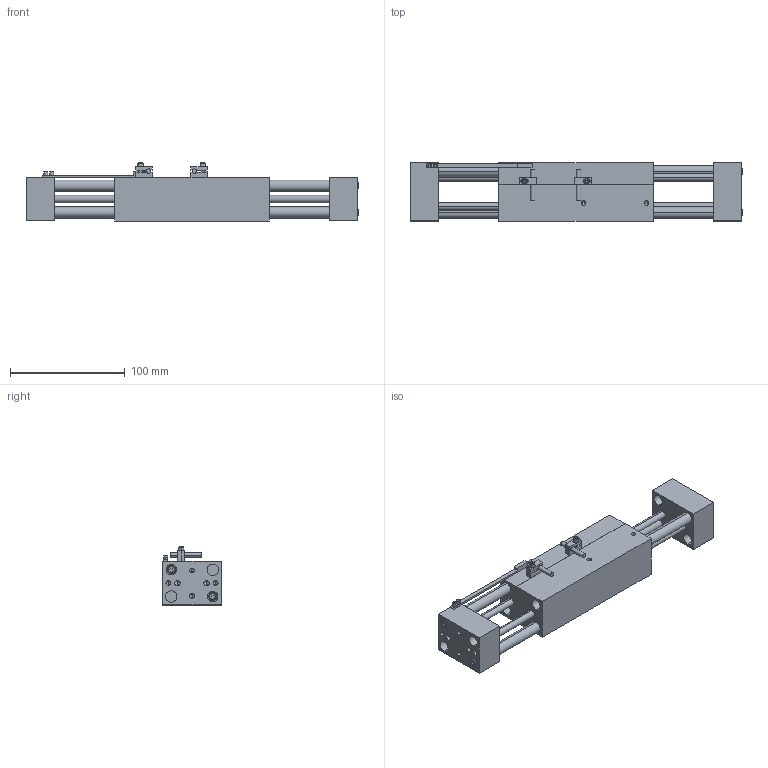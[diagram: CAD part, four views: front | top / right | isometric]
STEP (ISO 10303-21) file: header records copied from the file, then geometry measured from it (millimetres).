
FILE_DESCRIPTION (( 'STEP AP203' ), '1' );
FILE_NAME ('AGW-375-4X OPEN in INCHES.STEP', '2013-08-23T00:04:09', ( 'Owner' ), ( '' ), 'SwSTEP 2.0', 'SolidWorks 2010', '' );
FILE_SCHEMA (( 'CONFIG_CONTROL_DESIGN' ));
Length unit declared in the file: inch
Products named in the file (8): _sensrblk_agw-375-4x; _prod_agw-375-4x; AGW-375-4X OPEN in INCHES; _body_agw-375-4x; _sensr_agw-375-4x; _jawplt_agw375-4x; _sensrflag_agw-375-4x; _guiderod_agw-375-4x
Assembly tree (16 placements, depth 2):
  AGW-375-4X OPEN in INCHES
    _body_agw-375-4x
    _sensr_agw-375-4x  x2
    _prod_agw-375-4x  x4
    _jawplt_agw375-4x  x2
    _guiderod_agw-375-4x  x4
    _sensrblk_agw-375-4x  x2
    _sensrflag_agw-375-4x
Bounding box: 288.99 x 50.8 x 50.5 mm (x, y, z)
Volume: 345412.6 mm3; surface area: 105369.7 mm2
Topology: 16 solids, 16 shells, 382 faces, 918 edges, 566 vertices
Faces by surface type: plane 164, cylinder 154, cone 52, torus 12
Entity records: 8134 total; most frequent: CARTESIAN_POINT 1299, DIRECTION 1274, ORIENTED_EDGE 1108, EDGE_CURVE 554, AXIS2_PLACEMENT_3D 473, VERTEX_POINT 358, VECTOR 328, LINE 328
